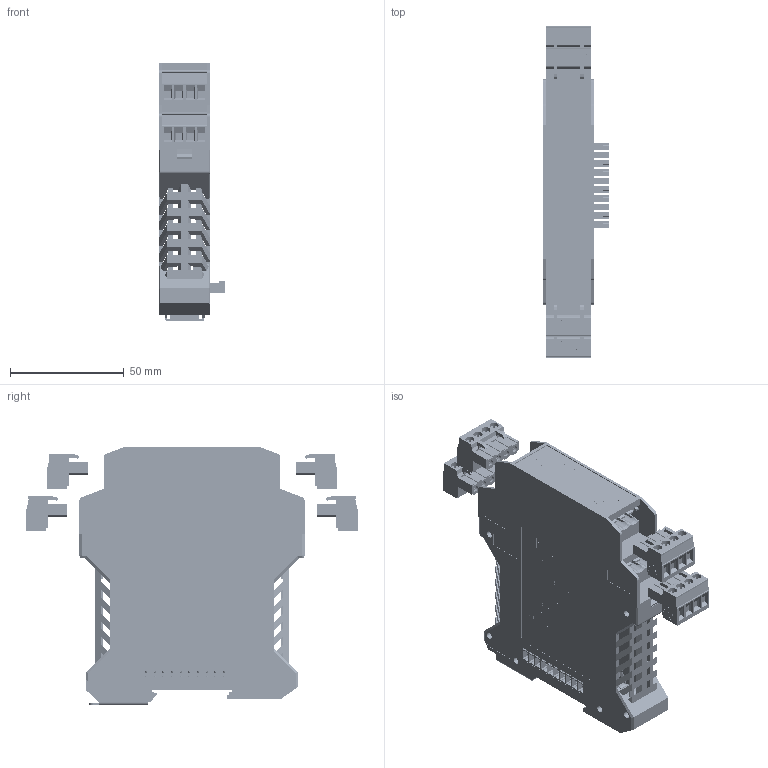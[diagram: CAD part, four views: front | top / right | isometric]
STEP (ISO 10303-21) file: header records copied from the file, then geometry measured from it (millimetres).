
FILE_DESCRIPTION(('STEP AP203'), '1');
FILE_NAME('鍛鍧 BOD-14_', '', ('UNSPECIFIED'), ('UNSPECIFIED'), 'ASCON STEP Converter 1.3', 'ASCON Math Kernel', '');
FILE_SCHEMA(('CONFIG_CONTROL_DESIGN'));
Length unit declared in the file: millimetre
Products named in the file (17): ME_22.5_UTR_H_BUS_10_H.Select__00496319; ME_Verriegelungshaken_H.Select__00446697; ME_22.5_UTL_H_BUS_10_H.Select__00496310; ME_BUS_22.5_MC_10-ST_H.Select__00493208; ME_BUS_FE-CONTACT_H.Select__00437355; Fussriegel_17.5_L30_H.Select__00315466; ME_22_5_OT-MSTBO_H.Select__00273265; MSTBO_2_5_4-G1L_H.Select__00364411; MSTBO_2_5_4-G1R_H.Select__00364505; MSTBT_2.5-4-ST
Assembly tree (22 placements, depth 5):
  (unnamed)
    (unnamed)
      (unnamed)
        (unnamed)
          ME_22.5_UTR_H_BUS_10_H.Select__00496319
          ME_Verriegelungshaken_H.Select__00446697  x2
          ME_22.5_UTL_H_BUS_10_H.Select__00496310
          ME_BUS_22.5_MC_10-ST_H.Select__00493208
          ME_BUS_FE-CONTACT_H.Select__00437355
          Fussriegel_17.5_L30_H.Select__00315466
      (unnamed)
        (unnamed)
          ME_22_5_OT-MSTBO_H.Select__00273265
          MSTBO_2_5_4-G1L_H.Select__00364411  x2
          MSTBO_2_5_4-G1R_H.Select__00364505  x2
    MSTBT_2.5-4-ST  x4
      MSTBT_2.5-4-ST
Bounding box: 29.1 x 145.9 x 113.6 mm (x, y, z)
Volume: 76886.2 mm3; surface area: 99699 mm2
Topology: 19 solids, 21 shells, 17798 faces, 50143 edges, 33271 vertices
Faces by surface type: plane 9989, cylinder 7427, extrusion 352, cone 30
Full cylindrical faces by diameter (mm): 0.813 x3, 0.853 x3, 1.353 x16, 1.4 x32, 1.6 x20, 2 x6, 2.1 x3, 2.8 x32, 3 x12, 3.783 x16, 4 x16
Entity records: 617943 total; most frequent: CARTESIAN_POINT 90893, DIRECTION 86230, ORIENTED_EDGE 85462, EDGE_CURVE 42731, AXIS2_PLACEMENT_3D 28983, VERTEX_POINT 28449, VECTOR 28264, LINE 28023
